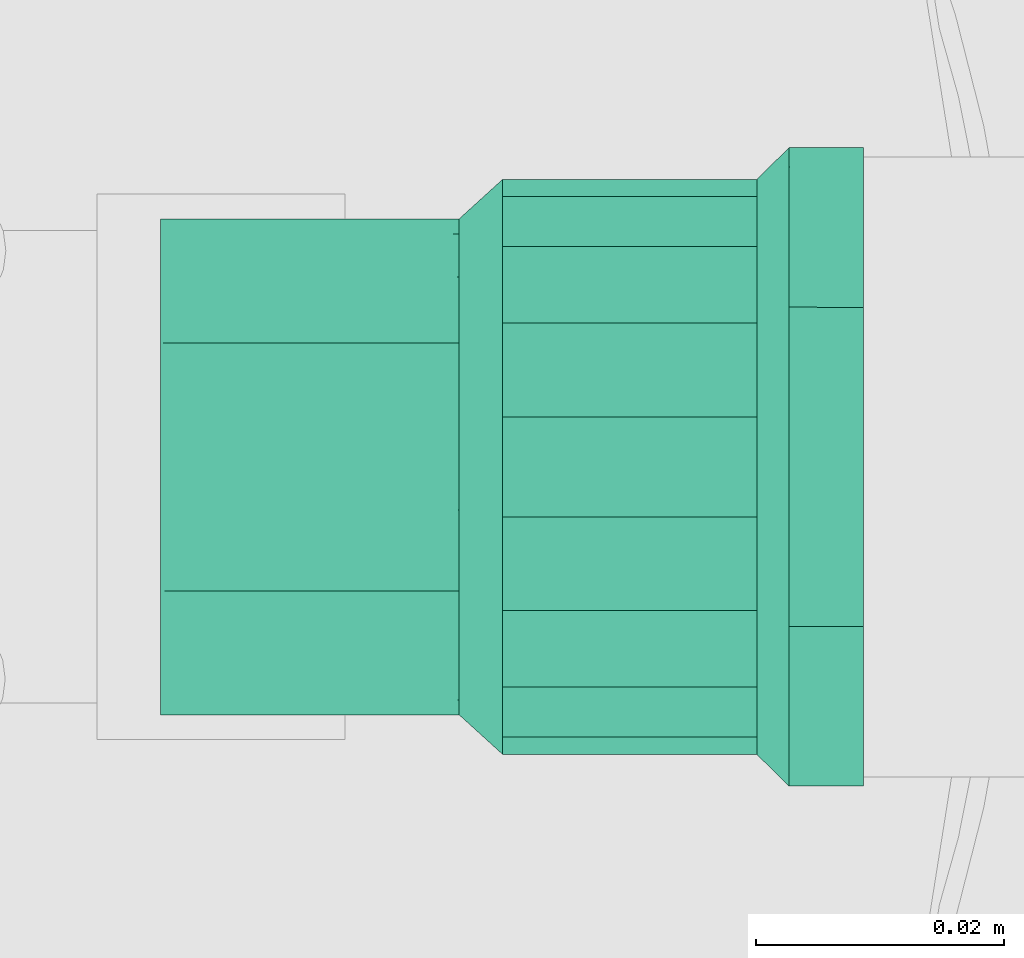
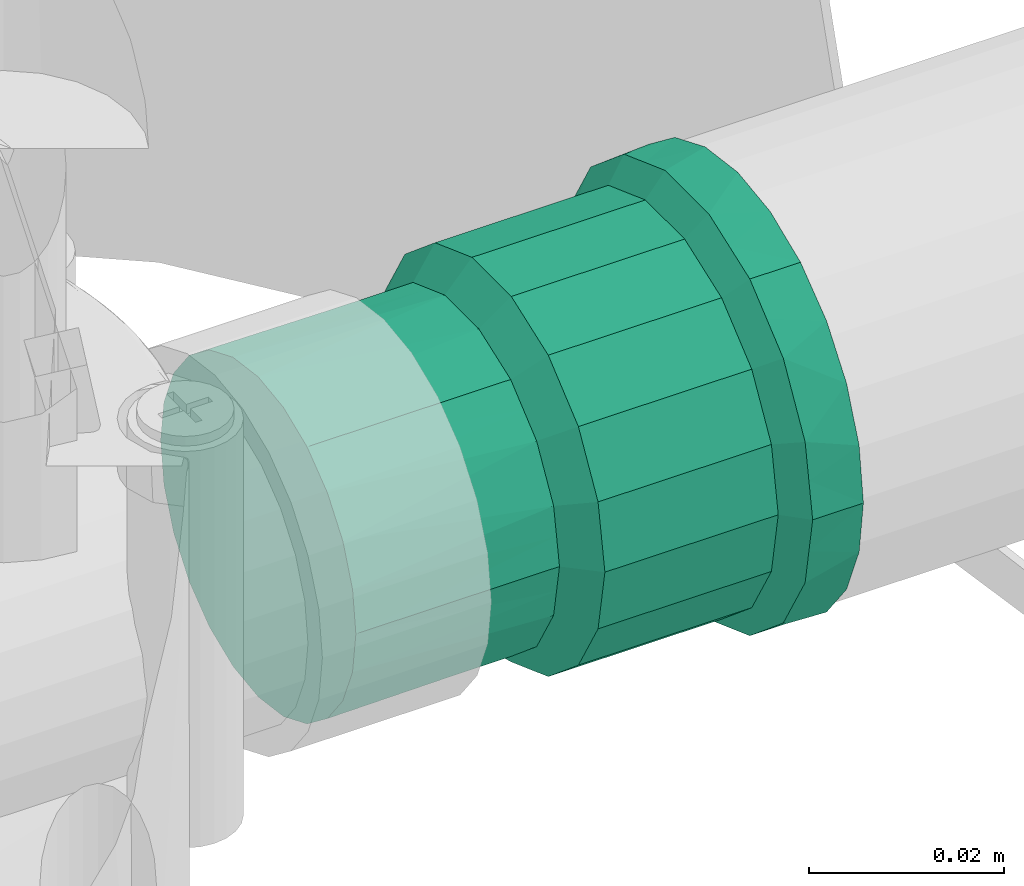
# One storey, part 144 of 166: 1 flow fitting.
"""IFC2X3 building model written with IfcOpenShell, lengths in metres."""

from ifc_helpers import new_model, entity, si_unit, converted_unit, direction, frame, origin, place, context, subcontext, project, spatial, faceted_brep, source, transform, mapped, material, type_object, type_shapes, element, save


model = new_model("IFC2X3")

# Units and contexts
model_context = context("Model", 3, precision=1e-05, world=origin(), true_north=direction((6.123233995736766e-17, 1.0)))
body_context = subcontext(model_context, "Body", "Model", "MODEL_VIEW")
ifc_project = project(units=[si_unit("LENGTHUNIT", "METRE"), converted_unit("PLANEANGLEUNIT", "DEGREE", entity("IfcPlaneAngleMeasure", 0.017453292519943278), si_unit("PLANEANGLEUNIT", "RADIAN"), dimensions=[0, 0, 0, 0, 0, 0, 0]), si_unit("AREAUNIT", "SQUARE_METRE")], contexts=[model_context])

# Site, building, storey
site_placement = place(None, origin())
site = spatial("IfcSite", under=ifc_project, at=site_placement, Name="Default", CompositionType="ELEMENT")
building_placement = place(site_placement, origin())
building = spatial("IfcBuilding", under=site, at=building_placement, Name="CASA DE ACOLHIDA PARA IDOSOS", CompositionType="ELEMENT")
storey_placement = place(building_placement, frame((0.0, 0.0, -1.7499999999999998)))
storey = spatial("IfcBuildingStorey", under=building, at=storey_placement, Name="IMPLANTAÇÃO DRENAGEM", CompositionType="ELEMENT", Elevation=-1.7499999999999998)

# Flow fitting
ifc_material = material(Name="PVC Marrom")
pipe_fitting_type = type_object("IfcPipeFittingType", Name="AF_Soldavel_Adaptador Curto com Bolsa e Rosca:Standard", PredefinedType="NOTDEFINED", material=ifc_material)
shared_shape = source(origin(), body_context, "Body", "Brep", [
    faceted_brep([(0.0, -0.012875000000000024, -0.02230015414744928), (0.0, -0.018207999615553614, -0.018207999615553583), (0.0, -0.0099999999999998, -0.017320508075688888), (0.0, -0.0051763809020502, -0.019318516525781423), (0.0, -0.006664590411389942, -0.0248725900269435), (0.0, -0.014142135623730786, -0.014142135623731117), (0.0, -0.022300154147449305, -0.01287499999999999), (0.0, -0.01732050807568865, -0.01000000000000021), (0.0, -0.0193185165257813, -0.005176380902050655), (0.0, -0.02487259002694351, -0.006664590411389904), (0.0, -0.02, 0.0), (0.0, -0.025750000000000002, 0.0), (0.0, -0.019318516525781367, 0.00517638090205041), (0.0, -0.024872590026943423, 0.006664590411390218), (0.0, -0.01732050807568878, 0.00999999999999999), (0.0, -0.02230015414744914, 0.012875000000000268), (0.0, -0.014142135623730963, 0.014142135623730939), (0.0, -0.018207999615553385, 0.018207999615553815), (0.0, -0.010000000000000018, 0.017320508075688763), (0.0, -0.012874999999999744, 0.022300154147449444), (0.0, -0.00517638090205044, 0.01931851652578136), (0.0, -0.006664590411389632, 0.024872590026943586), (0.0, 0.0, 0.02), (0.0, 0.0, 0.025750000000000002), (0.0, 0.005176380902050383, 0.019318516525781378), (0.0, 0.0066645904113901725, 0.024872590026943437), (0.0, 0.009999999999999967, 0.017320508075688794), (0.0, 0.012875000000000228, 0.022300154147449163), (0.0, 0.01414213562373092, 0.014142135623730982), (0.0, 0.01820799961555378, 0.01820799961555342), (0.0, 0.01732050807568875, 0.010000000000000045), (0.0, 0.02230015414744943, 0.012874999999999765), (0.0, 0.024872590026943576, 0.006664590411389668), (0.0, 0.01931851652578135, 0.005176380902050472), (0.0, 0.025750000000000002, 0.0), (0.0, 0.02, 0.0), (0.0, 0.02487259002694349, -0.006664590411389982), (0.0, 0.01931851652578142, -0.005176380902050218), (0.0, 0.02230015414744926, -0.012875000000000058), (0.0, 0.01732050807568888, -0.009999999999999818), (0.0, 0.01820799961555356, -0.018207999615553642), (0.0, 0.014142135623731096, -0.014142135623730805), (0.0, 0.012874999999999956, -0.022300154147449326), (0.0, 0.010000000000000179, -0.01732050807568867), (0.0, 0.006664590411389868, -0.024872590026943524), (0.0, 0.005176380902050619, -0.01931851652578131), (0.0, 0.0, -0.025750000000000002), (0.0, 0.0, -0.02), (0.005999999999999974, 0.024196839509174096, 0.008807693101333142), (0.005999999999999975, 0.024768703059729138, 0.005564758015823), (0.005999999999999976, 0.024973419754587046, 0.00440384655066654), (0.005999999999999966, 0.016298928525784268, 0.019427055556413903), (0.005999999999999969, 0.019724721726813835, 0.016552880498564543), (0.005999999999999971, 0.021960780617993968, 0.012680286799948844), (0.00599999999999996, 0.008670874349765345, 0.02383026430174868), (0.005999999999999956, 0.004468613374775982, 0.02535929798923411), (0.0059999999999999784, 0.025750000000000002, 0.0), (0.0059999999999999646, 0.01287313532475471, 0.02230123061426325), (0.00599999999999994, -0.012878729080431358, 0.022298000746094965), (0.005999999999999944, -0.008676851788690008, 0.023828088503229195), (0.005999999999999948, -0.004474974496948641, 0.02535817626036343), (0.005999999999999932, -0.019728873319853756, 0.016547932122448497), (0.005999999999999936, -0.016303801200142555, 0.019422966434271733), (0.0059999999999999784, -0.025750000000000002, 0.0), (0.005999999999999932, -0.024199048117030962, 0.008801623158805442), (0.005999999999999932, -0.021963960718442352, 0.012674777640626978), (0.0059999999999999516, -3.180561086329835e-06, 0.02535873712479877), (0.006000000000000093, -0.024199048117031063, -0.00880162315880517), (0.006000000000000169, -0.01630380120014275, -0.019422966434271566), (0.006000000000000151, -0.019728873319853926, -0.016547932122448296), (0.006000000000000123, -0.021963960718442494, -0.012674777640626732), (0.006000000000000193, -0.008676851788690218, -0.023828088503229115), (0.006000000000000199, -0.004474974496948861, -0.025358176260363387), (0.006000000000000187, -0.012878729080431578, -0.02229800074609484), (0.006000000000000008, 0.02497341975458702, -0.004403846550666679), (0.0060000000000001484, 0.012873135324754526, -0.022301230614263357), (0.006000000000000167, 0.008670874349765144, -0.023830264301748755), (0.006000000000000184, 0.004468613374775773, -0.02535929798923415), (0.006000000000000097, 0.01972472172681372, -0.016552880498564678), (0.006000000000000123, 0.016298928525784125, -0.019427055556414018), (0.006000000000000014, 0.024768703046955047, -0.005564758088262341), (0.006000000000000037, 0.024196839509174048, -0.008807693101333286), (0.006000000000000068, 0.021960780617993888, -0.012680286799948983), (0.006000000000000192, -3.1805610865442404e-06, -0.02535873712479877), (0.02909999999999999, 0.022482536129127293, 0.004068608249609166), (0.02910000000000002, 0.023200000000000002, 0.0), (0.00860000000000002, 0.023200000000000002, 0.0), (0.008600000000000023, 0.022500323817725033, 0.003967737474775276), (0.008600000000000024, 0.021800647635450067, 0.007935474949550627), (0.029099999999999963, 0.021800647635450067, 0.007935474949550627), (0.02909999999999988, 0.014684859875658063, 0.017503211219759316), (0.029099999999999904, 0.017771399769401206, 0.014913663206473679), (0.008600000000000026, 0.017771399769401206, 0.014913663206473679), (0.00860000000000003, 0.014684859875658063, 0.017503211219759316), (0.00860000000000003, 0.011598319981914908, 0.020092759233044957), (0.02909999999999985, 0.011598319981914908, 0.020092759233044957), (0.02909999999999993, 0.019786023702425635, 0.01142456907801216), (0.008600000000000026, 0.019786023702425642, 0.011424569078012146), (0.029099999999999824, 0.004026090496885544, 0.02284798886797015), (0.02909999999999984, 0.007812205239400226, 0.021470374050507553), (0.00860000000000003, 0.007812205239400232, 0.02147037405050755), (0.00860000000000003, 0.004026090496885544, 0.02284798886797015), (0.029099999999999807, -0.004031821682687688, 0.022846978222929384), (0.029099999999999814, -2.8655929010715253e-06, 0.022847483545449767), (0.00860000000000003, -2.8655929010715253e-06, 0.022847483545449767), (0.00860000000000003, -0.004031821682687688, 0.022846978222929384), (0.029099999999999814, -0.007817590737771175, 0.021468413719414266), (0.00860000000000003, -0.007817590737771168, 0.021468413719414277), (0.00860000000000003, -0.011603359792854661, 0.020089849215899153), (0.029099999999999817, -0.011603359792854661, 0.020089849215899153), (0.00860000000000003, -0.01468925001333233, 0.017499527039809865), (0.00860000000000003, -0.017775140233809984, 0.014909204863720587), (0.029099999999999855, -0.017775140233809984, 0.014909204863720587), (0.02909999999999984, -0.014689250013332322, 0.01749952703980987), (0.02909999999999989, -0.019788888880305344, 0.011419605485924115), (0.00860000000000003, -0.019788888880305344, 0.01141960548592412), (0.008600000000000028, -0.021802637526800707, 0.00793000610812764), (0.02909999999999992, -0.021802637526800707, 0.00793000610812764), (0.00860000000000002, -0.023200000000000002, 0.0), (0.02910000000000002, -0.023200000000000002, 0.0), (0.029100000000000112, -0.021802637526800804, -0.007930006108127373), (0.008600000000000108, -0.021802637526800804, -0.007930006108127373), (0.00860000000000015, 0.01468485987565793, -0.017503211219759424), (0.008600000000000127, 0.0177713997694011, -0.014913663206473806), (0.029100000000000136, 0.0177713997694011, -0.014913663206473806), (0.02910000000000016, 0.01468485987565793, -0.017503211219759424), (0.02910000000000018, 0.011598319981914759, -0.020092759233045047), (0.00860000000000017, 0.011598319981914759, -0.020092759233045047), (0.02910000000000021, -0.01160335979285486, -0.020089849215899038), (0.029100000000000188, -0.014689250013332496, -0.017499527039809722), (0.02910000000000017, -0.017775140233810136, -0.014909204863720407), (0.008600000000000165, -0.017775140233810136, -0.014909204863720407), (0.00860000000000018, -0.014689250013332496, -0.017499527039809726), (0.0086000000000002, -0.01160335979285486, -0.020089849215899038), (0.008600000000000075, 0.021800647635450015, -0.007935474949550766), (0.02910000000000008, 0.021800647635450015, -0.007935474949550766), (0.029100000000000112, 0.01978602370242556, -0.011424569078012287), (0.0086000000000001, 0.01978602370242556, -0.011424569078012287), (0.008600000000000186, 0.007812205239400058, -0.021470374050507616), (0.029100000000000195, 0.007812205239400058, -0.021470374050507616), (0.029100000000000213, 0.004026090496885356, -0.022847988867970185), (0.008600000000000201, 0.004026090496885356, -0.022847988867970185), (0.02910000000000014, -0.019788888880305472, -0.01141960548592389), (0.008600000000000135, -0.01978888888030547, -0.01141960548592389), (0.008600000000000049, 0.02250032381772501, -0.00396773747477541), (0.029100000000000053, 0.02248253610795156, -0.004068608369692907), (0.029100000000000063, 0.022258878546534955, -0.0053369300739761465), (0.029100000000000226, -0.0040318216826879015, -0.022846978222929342), (0.029100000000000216, -0.00781759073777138, -0.02146841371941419), (0.008600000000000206, -0.00781759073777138, -0.02146841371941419), (0.008600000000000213, -0.0040318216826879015, -0.022846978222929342), (0.02910000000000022, -2.8655929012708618e-06, -0.022847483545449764), (0.008600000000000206, -2.8655929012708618e-06, -0.022847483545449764), (0.056699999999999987, -0.010000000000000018, -0.017320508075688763), (0.056699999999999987, -0.00517638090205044, -0.01931851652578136), (0.056699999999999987, 0.0, -0.02), (0.056699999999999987, 0.005176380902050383, -0.019318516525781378), (0.056699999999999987, 0.009999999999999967, -0.017320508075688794), (0.056699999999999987, 0.01414213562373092, -0.014142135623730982), (0.056699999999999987, 0.01732050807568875, -0.010000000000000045), (0.056699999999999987, 0.01931851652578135, -0.005176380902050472), (0.056699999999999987, 0.02, 0.0), (0.056699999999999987, 0.01931851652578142, 0.005176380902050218), (0.056699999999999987, 0.01732050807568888, 0.009999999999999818), (0.056699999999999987, 0.014142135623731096, 0.014142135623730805), (0.056699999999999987, 0.010000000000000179, 0.01732050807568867), (0.056699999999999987, 0.005176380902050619, 0.01931851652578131), (0.056699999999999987, 0.0, 0.02), (0.056699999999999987, -0.0051763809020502, 0.019318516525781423), (0.056699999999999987, -0.0099999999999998, 0.017320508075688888), (0.056699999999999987, -0.014142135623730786, 0.014142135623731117), (0.056699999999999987, -0.01732050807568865, 0.01000000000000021), (0.056699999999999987, -0.0193185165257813, 0.005176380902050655), (0.056699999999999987, -0.02, 0.0), (0.056699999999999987, -0.019318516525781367, -0.00517638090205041), (0.056699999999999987, -0.01732050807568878, -0.009999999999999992), (0.056699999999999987, -0.014142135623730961, -0.01414213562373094), (0.03261999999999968, 0.0067346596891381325, 0.018508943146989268), (0.03261999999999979, 0.015320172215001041, 0.012856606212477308), (0.03261999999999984, 0.017056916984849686, 0.0098487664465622), (0.032619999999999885, 0.01879366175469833, 0.006840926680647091), (0.032619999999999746, 0.012659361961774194, 0.015088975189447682), (0.032619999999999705, 0.009998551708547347, 0.01732134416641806), (0.032619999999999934, 0.01939683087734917, 0.003420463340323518), (0.03261999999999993, 0.019188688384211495, 0.004600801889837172), (0.03261999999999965, 0.0034707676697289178, 0.019696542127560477), (0.032619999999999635, -2.470338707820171e-06, 0.019696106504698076), (0.03261999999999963, -0.0034757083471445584, 0.019695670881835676), (0.03261999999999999, 0.02, 0.0), (0.032619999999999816, -0.01879537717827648, 0.006836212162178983), (0.03261999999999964, -0.006739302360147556, 0.018507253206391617), (0.032619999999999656, -0.010002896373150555, 0.017318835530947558), (0.03261999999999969, -0.012663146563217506, 0.0150857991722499), (0.03261999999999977, -0.01705938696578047, 0.009844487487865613), (0.03261999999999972, -0.015323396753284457, 0.012852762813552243), (0.03261999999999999, -0.02, 0.0), (0.03262000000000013, -0.015323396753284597, -0.012852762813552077), (0.0326200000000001, -0.017059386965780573, -0.009844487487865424), (0.03262000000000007, -0.018795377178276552, -0.006836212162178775), (0.03262000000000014, -0.012663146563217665, -0.015085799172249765), (0.032620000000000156, -0.010002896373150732, -0.017318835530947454), (0.03262000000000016, -0.006739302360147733, -0.01850725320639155), (0.03262000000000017, -0.0034757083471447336, -0.019695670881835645), (0.03262000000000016, -2.4703387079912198e-06, -0.019696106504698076), (0.032620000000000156, 0.0034707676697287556, -0.019696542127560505), (0.03262000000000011, 0.012659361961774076, -0.015088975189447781), (0.032620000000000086, 0.015320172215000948, -0.01285660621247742), (0.03262000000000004, 0.018793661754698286, -0.006840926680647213), (0.03262000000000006, 0.01705691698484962, -0.009848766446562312), (0.03262000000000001, 0.01939683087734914, -0.0034204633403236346), (0.03262000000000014, 0.006734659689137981, -0.018508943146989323), (0.03262000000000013, 0.009998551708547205, -0.017321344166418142), (0.00860000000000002, 0.019318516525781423, -0.005176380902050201), (0.02910000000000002, 0.019318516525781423, -0.005176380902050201), (0.02910000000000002, 0.02, 0.0), (0.00860000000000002, 0.02, 0.0), (0.0059999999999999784, 0.02, 0.0), (0.0059999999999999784, 0.019318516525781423, -0.005176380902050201), (0.00860000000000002, 0.017320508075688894, -0.009999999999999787), (0.02910000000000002, 0.017320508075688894, -0.009999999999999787), (0.0059999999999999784, 0.017320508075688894, -0.009999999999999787), (0.02910000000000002, 0.010000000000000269, -0.017320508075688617), (0.02910000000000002, 0.014142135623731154, -0.014142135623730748), (0.00860000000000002, 0.014142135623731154, -0.014142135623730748), (0.0059999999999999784, 0.014142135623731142, -0.01414213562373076), (0.0059999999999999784, 0.010000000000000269, -0.017320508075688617), (0.00860000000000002, 0.010000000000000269, -0.017320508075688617), (0.02910000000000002, 0.005176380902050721, -0.019318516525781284), (0.0059999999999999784, 0.005176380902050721, -0.019318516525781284), (0.00860000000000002, 0.005176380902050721, -0.019318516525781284), (0.02910000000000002, 0.0, -0.02), (0.0059999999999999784, 0.0, -0.02), (0.00860000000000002, 0.0, -0.02), (0.00860000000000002, -0.005176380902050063, -0.01931851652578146), (0.02910000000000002, -0.005176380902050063, -0.01931851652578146), (0.0059999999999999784, -0.005176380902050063, -0.01931851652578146), (0.00860000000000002, -0.009999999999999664, -0.017320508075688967), (0.02910000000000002, -0.009999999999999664, -0.017320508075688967), (0.0059999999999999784, -0.009999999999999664, -0.017320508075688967), (0.02910000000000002, -0.017320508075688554, -0.010000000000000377), (0.02910000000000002, -0.014142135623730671, -0.01414213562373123), (0.00860000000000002, -0.014142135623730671, -0.01414213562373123), (0.0059999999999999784, -0.01414213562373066, -0.014142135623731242), (0.0059999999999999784, -0.017320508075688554, -0.010000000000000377), (0.00860000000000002, -0.017320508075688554, -0.010000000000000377), (0.02910000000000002, -0.019318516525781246, -0.00517638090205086), (0.0059999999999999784, -0.019318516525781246, -0.00517638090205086), (0.00860000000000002, -0.019318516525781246, -0.00517638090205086), (0.00860000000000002, -0.02, 0.0), (0.02910000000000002, -0.02, 0.0), (0.0059999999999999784, -0.02, 0.0), (0.00860000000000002, -0.01931851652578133, 0.005176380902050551), (0.02910000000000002, -0.01931851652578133, 0.005176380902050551), (0.0059999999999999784, -0.01931851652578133, 0.005176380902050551), (0.00860000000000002, -0.017320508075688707, 0.010000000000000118), (0.02910000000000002, -0.017320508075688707, 0.010000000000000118), (0.0059999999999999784, -0.017320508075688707, 0.010000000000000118), (0.02910000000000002, -0.009999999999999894, 0.017320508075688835), (0.02910000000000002, -0.014142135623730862, 0.014142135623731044), (0.00860000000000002, -0.014142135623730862, 0.014142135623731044), (0.0059999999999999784, -0.014142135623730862, 0.014142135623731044), (0.0059999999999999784, -0.009999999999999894, 0.017320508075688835), (0.00860000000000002, -0.009999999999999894, 0.017320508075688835), (0.02910000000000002, -0.005176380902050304, 0.019318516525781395), (0.0059999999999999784, -0.005176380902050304, 0.019318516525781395), (0.00860000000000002, -0.005176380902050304, 0.019318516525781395), (0.02910000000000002, 0.0, 0.02), (0.0059999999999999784, 0.0, 0.02), (0.00860000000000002, 0.0, 0.02), (0.0059999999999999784, 0.005176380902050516, 0.01931851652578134), (0.00860000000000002, 0.005176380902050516, 0.01931851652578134), (0.02910000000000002, 0.005176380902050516, 0.01931851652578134), (0.02910000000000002, 0.017320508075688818, 0.009999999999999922), (0.00860000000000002, 0.017320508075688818, 0.009999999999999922), (0.0059999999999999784, 0.017320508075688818, 0.009999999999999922), (0.0059999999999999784, 0.019318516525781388, 0.005176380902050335), (0.00860000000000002, 0.019318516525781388, 0.005176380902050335), (0.02910000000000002, 0.019318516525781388, 0.005176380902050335), (0.02910000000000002, 0.014142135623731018, 0.014142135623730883), (0.00860000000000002, 0.014142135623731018, 0.014142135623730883), (0.0059999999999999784, 0.014142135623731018, 0.014142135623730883), (0.0059999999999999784, 0.010000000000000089, 0.017320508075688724), (0.00860000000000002, 0.010000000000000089, 0.017320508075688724), (0.02910000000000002, 0.010000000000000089, 0.017320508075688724)], [[[0, 1, 2]], [[0, 2, 3]], [[3, 4, 0]], [[2, 1, 5]], [[6, 5, 1]], [[7, 5, 6]], [[8, 7, 6]], [[8, 6, 9]], [[8, 9, 10]], [[10, 9, 11]], [[12, 10, 11]], [[12, 11, 13]], [[14, 12, 13]], [[14, 13, 15]], [[16, 14, 15]], [[15, 17, 16]], [[17, 18, 16]], [[18, 17, 19]], [[18, 19, 20]], [[21, 20, 19]], [[20, 21, 22]], [[22, 21, 23]], [[23, 24, 22]], [[24, 23, 25]], [[24, 25, 26]], [[27, 26, 25]], [[27, 28, 26]], [[27, 29, 28]], [[30, 28, 29]], [[31, 30, 29]], [[32, 30, 31]], [[33, 30, 32]], [[33, 32, 34]], [[34, 35, 33]], [[36, 35, 34]], [[36, 37, 35]], [[37, 36, 38]], [[39, 37, 38]], [[39, 38, 40]], [[39, 40, 41]], [[40, 42, 41]], [[41, 42, 43]], [[43, 42, 44]], [[44, 45, 43]], [[46, 45, 44]], [[4, 47, 46]], [[46, 47, 45]], [[4, 3, 47]], [[32, 48, 49, 50]], [[51, 52, 29]], [[53, 48, 31, 52]], [[54, 25, 55]], [[48, 32, 31]], [[34, 50, 56]], [[27, 57, 51]], [[29, 27, 51]], [[29, 52, 31]], [[19, 58, 59]], [[21, 19, 59]], [[54, 57, 27]], [[25, 54, 27]], [[55, 25, 23]], [[32, 50, 34]], [[59, 60, 21]], [[61, 62, 17]], [[63, 64, 13]], [[65, 61, 15, 64]], [[11, 63, 13]], [[17, 62, 19]], [[66, 55, 23, 60]], [[21, 60, 23]], [[61, 17, 15]], [[19, 62, 58]], [[13, 64, 15]], [[67, 63, 9]], [[68, 69, 1]], [[70, 67, 6, 69]], [[71, 4, 72]], [[67, 9, 6]], [[63, 11, 9]], [[4, 71, 0]], [[0, 73, 68]], [[1, 69, 6]], [[36, 34, 74]], [[42, 75, 76]], [[71, 73, 0]], [[44, 42, 76]], [[72, 4, 46]], [[1, 0, 68]], [[76, 77, 44]], [[78, 79, 40]], [[36, 74, 80, 81]], [[82, 78, 38, 81]], [[36, 81, 38]], [[40, 79, 42]], [[83, 72, 46, 77]], [[44, 77, 46]], [[78, 40, 38]], [[42, 79, 75]], [[34, 56, 74]], [[84, 85, 86, 87, 88, 89]], [[90, 91, 92, 93, 94, 95]], [[91, 96, 89, 88, 97, 92]], [[98, 99, 95, 94, 100, 101]], [[102, 103, 98, 101, 104, 105]], [[106, 102, 105, 107, 108, 109]], [[110, 111, 112, 113, 109, 108]], [[114, 112, 111, 115, 116, 117]], [[116, 118, 119, 117]], [[120, 119, 118, 121]], [[122, 123, 124, 125, 126, 127]], [[128, 129, 130, 131, 132, 133]], [[134, 135, 136, 124, 123, 137]], [[138, 127, 126, 139, 140, 141]], [[130, 142, 120, 121, 143, 131]], [[144, 86, 85, 145, 146, 135, 134]], [[147, 148, 128, 133, 149, 150]], [[140, 151, 147, 150, 152, 141]], [[153, 154, 155, 156, 157, 158, 159, 160, 161, 162, 163, 164, 165, 166, 167, 168, 169, 170, 171, 172, 173, 174, 175, 176]], [[166, 165, 177]], [[178, 164, 163]], [[179, 178, 163, 180]], [[165, 181, 182]], [[162, 183, 184, 180]], [[177, 185, 166]], [[181, 164, 178]], [[186, 187, 167, 185]], [[164, 181, 165]], [[162, 161, 183]], [[161, 188, 183]], [[162, 180, 163]], [[167, 187, 168]], [[189, 172, 171]], [[168, 190, 169]], [[169, 191, 192]], [[193, 189, 171, 194]], [[173, 172, 195]], [[168, 187, 190]], [[190, 191, 169]], [[170, 194, 171]], [[165, 182, 177]], [[192, 194, 170]], [[170, 169, 192]], [[189, 195, 172]], [[166, 185, 167]], [[174, 173, 195]], [[196, 176, 175]], [[197, 196, 175, 198]], [[153, 199, 200]], [[174, 195, 198]], [[201, 202, 154]], [[199, 176, 196]], [[203, 204, 155, 202]], [[154, 202, 155]], [[176, 199, 153]], [[158, 157, 205]], [[154, 153, 201]], [[153, 200, 201]], [[158, 206, 159]], [[174, 198, 175]], [[207, 160, 159]], [[208, 207, 159, 206]], [[160, 209, 161]], [[209, 188, 161]], [[204, 210, 156]], [[156, 155, 204]], [[157, 210, 211]], [[156, 210, 157]], [[205, 206, 158]], [[160, 207, 209]], [[157, 211, 205]], [[212, 213, 214, 215, 216, 35, 37, 217]], [[218, 219, 213, 212, 217, 37, 39, 220]], [[221, 222, 223, 224, 41, 43, 225, 226]], [[218, 220, 39, 41, 224, 223, 222, 219]], [[227, 221, 226, 225, 43, 45, 228, 229]], [[230, 227, 229, 228, 45, 47, 231, 232]], [[233, 234, 230, 232, 231, 47, 3, 235]], [[236, 237, 234, 233, 235, 3, 2, 238]], [[239, 240, 241, 242, 5, 7, 243, 244]], [[236, 238, 2, 5, 242, 241, 240, 237]], [[245, 239, 244, 243, 7, 8, 246, 247]], [[248, 249, 245, 247, 246, 8, 10, 250]], [[251, 252, 249, 248, 250, 10, 12, 253]], [[254, 255, 252, 251, 253, 12, 14, 256]], [[257, 258, 259, 260, 16, 18, 261, 262]], [[254, 256, 14, 16, 260, 259, 258, 255]], [[263, 257, 262, 261, 18, 20, 264, 265]], [[266, 263, 265, 264, 20, 22, 267, 268]], [[268, 267, 22, 24, 269, 270, 271, 266]], [[272, 273, 274, 30, 33, 275, 276, 277]], [[273, 272, 278, 279, 280, 28, 30, 274]], [[277, 276, 275, 33, 35, 216, 215, 214]], [[271, 270, 269, 24, 26, 281, 282, 283]], [[283, 282, 281, 26, 28, 280, 279, 278]], [[63, 67, 121, 118]], [[68, 73, 133, 132, 131, 69]], [[149, 133, 73, 71, 72, 150]], [[70, 69, 131, 143, 121, 67]], [[76, 75, 127, 138, 141, 77]], [[82, 81, 134, 137, 123, 78]], [[144, 134, 81, 80, 74, 56, 86]], [[141, 152, 150, 72, 83, 77]], [[123, 122, 127, 75, 79, 78]], [[87, 86, 56, 50, 49, 48, 88]], [[97, 88, 48, 53, 52, 92]], [[93, 92, 52, 51, 57, 94]], [[57, 54, 55, 101, 100, 94]], [[66, 60, 105, 104, 101, 55]], [[58, 108, 107, 105, 60, 59]], [[63, 118, 116, 64]], [[61, 65, 64, 116, 115, 111]], [[58, 62, 61, 111, 110, 108]], [[227, 230, 234, 237, 240, 239, 245, 249, 252, 255, 258, 257, 263, 266, 271, 283, 278, 272, 277, 214, 213, 219, 222, 221]], [[180, 184, 183, 188, 85, 84, 89]], [[99, 98, 185, 177, 182, 95]], [[182, 181, 178, 91, 90, 95]], [[178, 179, 180, 89, 96, 91]], [[103, 102, 187, 186, 185, 98]], [[114, 117, 189, 193, 194, 112]], [[106, 109, 191, 190, 187, 102]], [[117, 119, 195, 189]], [[194, 192, 191, 109, 113, 112]], [[119, 120, 198, 195]], [[201, 200, 128, 148, 147, 202]], [[129, 128, 200, 199, 196, 130]], [[196, 197, 198, 120, 142, 130]], [[139, 126, 211, 210, 204, 140]], [[136, 135, 207, 208, 206, 124]], [[209, 207, 135, 146, 145, 85, 188]], [[204, 203, 202, 147, 151, 140]], [[206, 205, 211, 126, 125, 124]]]),
])
type_shapes(pipe_fitting_type, [shared_shape])
flow_fitting_placement = place(storey_placement, frame((-49.02258607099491, -3.5450579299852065, -0.2), z_axis=(0.0, 0.0, 1.0), x_axis=(-1.0, 0.0, 0.0)))
element("IfcFlowFitting", 1, at=flow_fitting_placement, inside=storey, type_object=pipe_fitting_type, material=ifc_material, Name="AF_Soldavel_Adaptador Curto com Bolsa e Rosca:Standard", ObjectType="AF_Soldavel_Adaptador Curto com Bolsa e Rosca:Standard", context=body_context, shape_type="MappedRepresentation", body=[
    mapped(shared_shape, transform((0.0, 0.0, 0.0), scale=1.0)),
])

save(model, "model.ifc")
